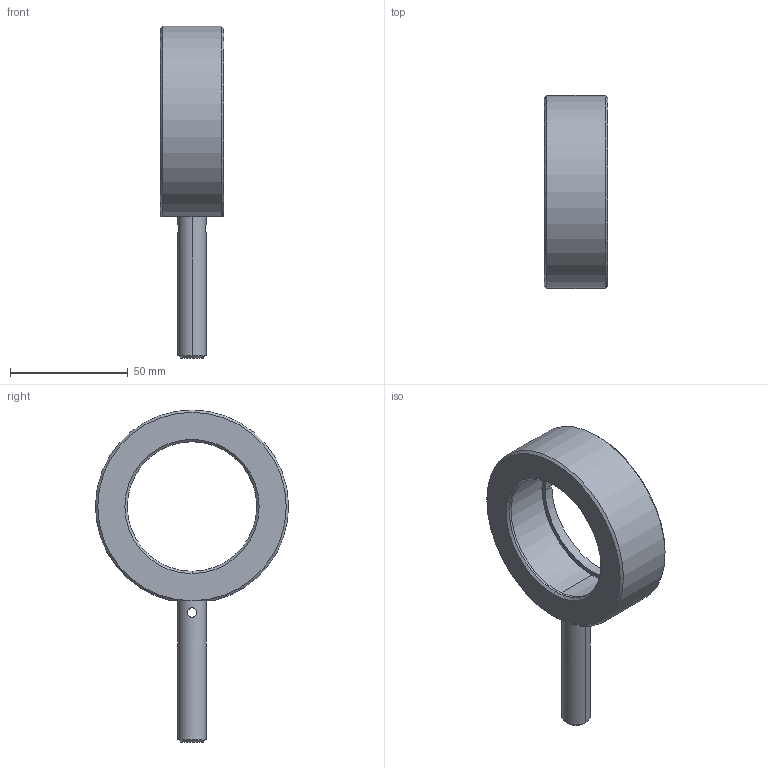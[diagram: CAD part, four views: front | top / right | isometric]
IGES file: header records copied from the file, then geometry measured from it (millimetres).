
Global section: file name: No Iges File Name specified; native system: AutoDesk Inventor R11.0; preprocessor: AutoDesk Inventor Iges Exporter R11.0; author: No Author specified; organization: No Organization specified; date: 20070119.163601; units: millimetre
Bounding box: 27 x 81.97 x 141 mm (x, y, z)
Volume: 74632.1 mm3; surface area: 20611.9 mm2
Topology: 3 solids, 3 shells, 42 faces, 97 edges, 62 vertices
Faces by surface type: bspline 14, plane 13, revolution 6, cylinder 5, cone 4
